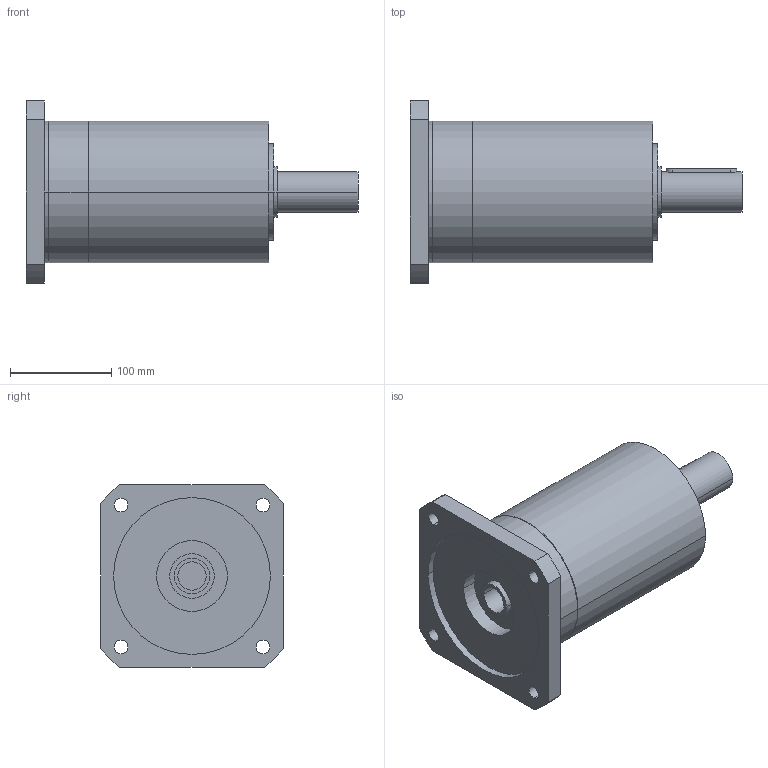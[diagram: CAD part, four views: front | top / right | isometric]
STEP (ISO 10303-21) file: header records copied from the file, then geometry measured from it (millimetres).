
FILE_DESCRIPTION(('CoCreate Modeling STEP Export'),'2;1');
FILE_NAME('GPR150_ig-9-12-16-20-28-35_40_B14_28_P11.stp','2014-08-19T17:03:50',(''),(''),'CoCreate Modeling STEP processor for AP214 (Solid Model)','CoCreate Modeling 16.00C 25-Feb-2009 (C) Parametric Technology GmbH','');
FILE_SCHEMA(('AUTOMOTIVE_DESIGN { 1 0 10303 214 1 1 1 1 }'));
Length unit declared in the file: millimetre
Products named in the file (2): GPR150_ig-9-12-16-20-28-35_40_B14_28_P11
Assembly tree (1 placements, depth 2):
  GPR150_ig-9-12-16-20-28-35_40_B14_28_P11
    GPR150_ig-9-12-16-20-28-35_40_B14_28_P11
Bounding box: 328 x 180 x 180 mm (x, y, z)
Volume: 3879595.9 mm3; surface area: 207641.4 mm2
Topology: 1 solids, 1 shells, 76 faces, 202 edges, 142 vertices
Faces by surface type: cylinder 46, plane 24, cone 6
Entity records: 2103 total; most frequent: CARTESIAN_POINT 406, ORIENTED_EDGE 400, DIRECTION 282, EDGE_CURVE 200, VERTEX_POINT 142, AXIS2_PLACEMENT_3D 106, EDGE_LOOP 100, FACE_OUTER_BOUND 76
